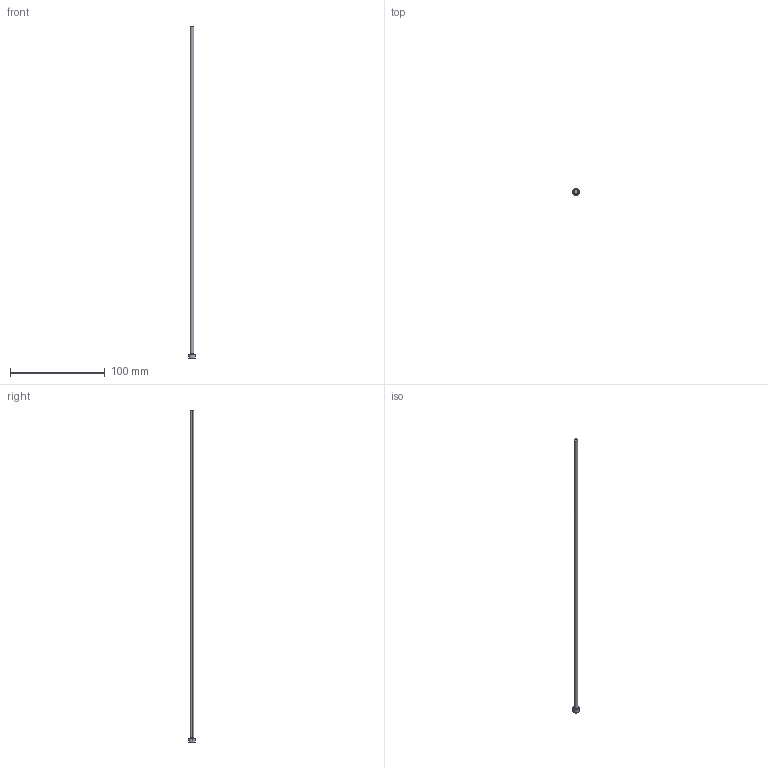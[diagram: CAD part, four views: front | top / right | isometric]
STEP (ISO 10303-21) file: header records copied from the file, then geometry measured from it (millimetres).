
FILE_DESCRIPTION (( 'STEP AP214' ), '1' );
FILE_NAME ('EPHE-B4-350.step', '2024-04-11T21:26:20', ( '' ), ( '' ), 'SwSTEP 2.0', 'SolidWorks 2017', '' );
FILE_SCHEMA (( 'AUTOMOTIVE_DESIGN' ));
Length unit declared in the file: millimetre
Products named in the file (1): EPHE-B4-350
Bounding box: 7 x 7 x 350 mm (x, y, z)
Volume: 4502.6 mm3; surface area: 4510.3 mm2
Topology: 1 solids, 1 shells, 9 faces, 16 edges, 10 vertices
Faces by surface type: cylinder 4, plane 3, torus 2
Entity records: 260 total; most frequent: DIRECTION 48, CARTESIAN_POINT 36, ORIENTED_EDGE 32, AXIS2_PLACEMENT_3D 22, EDGE_CURVE 16, CIRCLE 12, VERTEX_POINT 10, EDGE_LOOP 10
